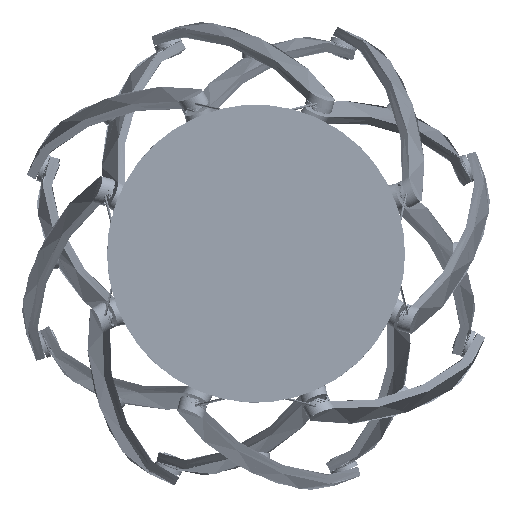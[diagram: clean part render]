
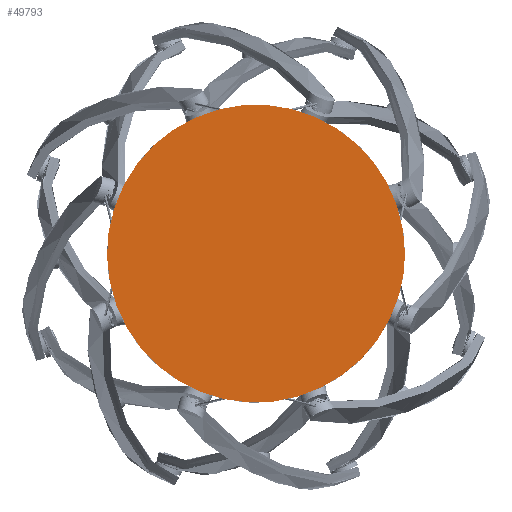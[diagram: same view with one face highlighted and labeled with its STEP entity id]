
A CAD part, top view. The second image highlights one B-rep face of the part: STEP entity #49793.
In plain terms, the highlighted free-form (B-spline) face has degree [3, 3] with [4, 11] control points.
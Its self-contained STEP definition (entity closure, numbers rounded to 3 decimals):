
#11351=FACE_OUTER_BOUND('',#13527,.T.);
#13527=EDGE_LOOP('',(#46921,#46922,#46923));
#18102=B_SPLINE_CURVE_WITH_KNOTS('',3,(#160926,#160927,#160928,#160929),
 .UNSPECIFIED.,.F.,.F.,(4,4),(0.,1.),.UNSPECIFIED.);
#18103=B_SPLINE_CURVE_WITH_KNOTS('',3,(#160930,#160931,#160932,#160933,
#160934,#160935,#160936,#160937,#160938,#160939,#160940),.UNSPECIFIED.,
 .T.,.F.,(4,1,1,1,1,1,1,1,4),(2.,3.,4.,5.,6.,7.,8.,9.,10.),
 .UNSPECIFIED.);
#27622=VERTEX_POINT('',#160924);
#27623=VERTEX_POINT('',#160925);
#37221=EDGE_CURVE('',#27622,#27623,#18102,.T.);
#37222=EDGE_CURVE('',#27623,#27623,#18103,.T.);
#46921=ORIENTED_EDGE('',*,*,#37221,.T.);
#46922=ORIENTED_EDGE('',*,*,#37222,.T.);
#46923=ORIENTED_EDGE('',*,*,#37221,.F.);
#47785=B_SPLINE_SURFACE_WITH_KNOTS('',3,3,((#160880,#160881,#160882,#160883,
#160884,#160885,#160886,#160887,#160888,#160889,#160890),(#160891,#160892,
#160893,#160894,#160895,#160896,#160897,#160898,#160899,#160900,#160901),
(#160902,#160903,#160904,#160905,#160906,#160907,#160908,#160909,#160910,
#160911,#160912),(#160913,#160914,#160915,#160916,#160917,#160918,#160919,
#160920,#160921,#160922,#160923)),.UNSPECIFIED.,.F.,.T.,.F.,(4,4),(4,1,
1,1,1,1,1,1,4),(0.,1.),(2.,3.,4.,5.,6.,7.,8.,9.,10.),.UNSPECIFIED.);
#49793=ADVANCED_FACE('',(#11351),#47785,.T.);
#160880=CARTESIAN_POINT('Ctrl Pts',(0.,0.,
42.343));
#160881=CARTESIAN_POINT('Ctrl Pts',(0.,0.,
42.343));
#160882=CARTESIAN_POINT('Ctrl Pts',(0.,0.,
42.343));
#160883=CARTESIAN_POINT('Ctrl Pts',(0.,0.,
42.343));
#160884=CARTESIAN_POINT('Ctrl Pts',(0.,0.,
42.343));
#160885=CARTESIAN_POINT('Ctrl Pts',(0.,0.,
42.343));
#160886=CARTESIAN_POINT('Ctrl Pts',(0.,0.,
42.343));
#160887=CARTESIAN_POINT('Ctrl Pts',(0.,0.,
42.343));
#160888=CARTESIAN_POINT('Ctrl Pts',(0.,0.,
42.343));
#160889=CARTESIAN_POINT('Ctrl Pts',(0.,0.,
42.343));
#160890=CARTESIAN_POINT('Ctrl Pts',(0.,0.,
42.343));
#160891=CARTESIAN_POINT('Ctrl Pts',(1.5,-0.003,
42.343));
#160892=CARTESIAN_POINT('Ctrl Pts',(1.501,0.389,
42.343));
#160893=CARTESIAN_POINT('Ctrl Pts',(1.177,1.173,42.343));
#160894=CARTESIAN_POINT('Ctrl Pts',(0.003,1.662,
42.343));
#160895=CARTESIAN_POINT('Ctrl Pts',(-1.173,1.177,42.343));
#160896=CARTESIAN_POINT('Ctrl Pts',(-1.662,0.003,
42.343));
#160897=CARTESIAN_POINT('Ctrl Pts',(-1.177,-1.173,42.343));
#160898=CARTESIAN_POINT('Ctrl Pts',(-0.003,-1.662,
42.343));
#160899=CARTESIAN_POINT('Ctrl Pts',(1.173,-1.177,42.343));
#160900=CARTESIAN_POINT('Ctrl Pts',(1.499,-0.394,
42.343));
#160901=CARTESIAN_POINT('Ctrl Pts',(1.5,-0.003,
42.343));
#160902=CARTESIAN_POINT('Ctrl Pts',(3.,-0.005,
42.343));
#160903=CARTESIAN_POINT('Ctrl Pts',(3.001,0.778,
42.343));
#160904=CARTESIAN_POINT('Ctrl Pts',(2.355,2.347,42.343));
#160905=CARTESIAN_POINT('Ctrl Pts',(0.006,3.325,
42.343));
#160906=CARTESIAN_POINT('Ctrl Pts',(-2.347,2.355,42.343));
#160907=CARTESIAN_POINT('Ctrl Pts',(-3.325,0.006,
42.343));
#160908=CARTESIAN_POINT('Ctrl Pts',(-2.355,-2.347,
42.343));
#160909=CARTESIAN_POINT('Ctrl Pts',(-0.006,-3.325,
42.343));
#160910=CARTESIAN_POINT('Ctrl Pts',(2.347,-2.355,42.343));
#160911=CARTESIAN_POINT('Ctrl Pts',(2.999,-0.789,
42.343));
#160912=CARTESIAN_POINT('Ctrl Pts',(3.,-0.005,
42.343));
#160913=CARTESIAN_POINT('Ctrl Pts',(4.5,-0.008,
42.343));
#160914=CARTESIAN_POINT('Ctrl Pts',(4.502,1.168,42.343));
#160915=CARTESIAN_POINT('Ctrl Pts',(3.532,3.52,42.343));
#160916=CARTESIAN_POINT('Ctrl Pts',(0.009,4.987,
42.343));
#160917=CARTESIAN_POINT('Ctrl Pts',(-3.52,3.532,42.343));
#160918=CARTESIAN_POINT('Ctrl Pts',(-4.987,0.009,
42.343));
#160919=CARTESIAN_POINT('Ctrl Pts',(-3.532,-3.52,42.343));
#160920=CARTESIAN_POINT('Ctrl Pts',(-0.009,-4.987,
42.343));
#160921=CARTESIAN_POINT('Ctrl Pts',(3.52,-3.532,42.343));
#160922=CARTESIAN_POINT('Ctrl Pts',(4.498,-1.183,42.343));
#160923=CARTESIAN_POINT('Ctrl Pts',(4.5,-0.008,
42.343));
#160924=CARTESIAN_POINT('',(0.,0.,
42.343));
#160925=CARTESIAN_POINT('',(4.5,-0.008,42.343));
#160926=CARTESIAN_POINT('Ctrl Pts',(0.,0.,
42.343));
#160927=CARTESIAN_POINT('Ctrl Pts',(1.5,-0.003,
42.343));
#160928=CARTESIAN_POINT('Ctrl Pts',(3.,-0.005,
42.343));
#160929=CARTESIAN_POINT('Ctrl Pts',(4.5,-0.008,
42.343));
#160930=CARTESIAN_POINT('Ctrl Pts',(4.5,-0.008,
42.343));
#160931=CARTESIAN_POINT('Ctrl Pts',(4.502,1.168,42.343));
#160932=CARTESIAN_POINT('Ctrl Pts',(3.532,3.52,42.343));
#160933=CARTESIAN_POINT('Ctrl Pts',(0.009,4.987,
42.343));
#160934=CARTESIAN_POINT('Ctrl Pts',(-3.52,3.532,42.343));
#160935=CARTESIAN_POINT('Ctrl Pts',(-4.987,0.009,
42.343));
#160936=CARTESIAN_POINT('Ctrl Pts',(-3.532,-3.52,42.343));
#160937=CARTESIAN_POINT('Ctrl Pts',(-0.009,-4.987,
42.343));
#160938=CARTESIAN_POINT('Ctrl Pts',(3.52,-3.532,42.343));
#160939=CARTESIAN_POINT('Ctrl Pts',(4.498,-1.183,42.343));
#160940=CARTESIAN_POINT('Ctrl Pts',(4.5,-0.008,
42.343));
